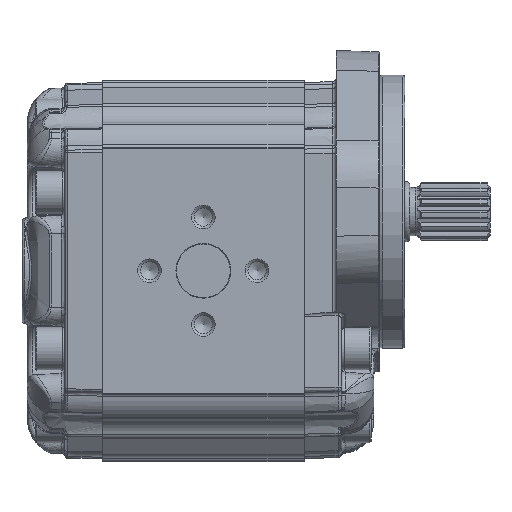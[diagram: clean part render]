
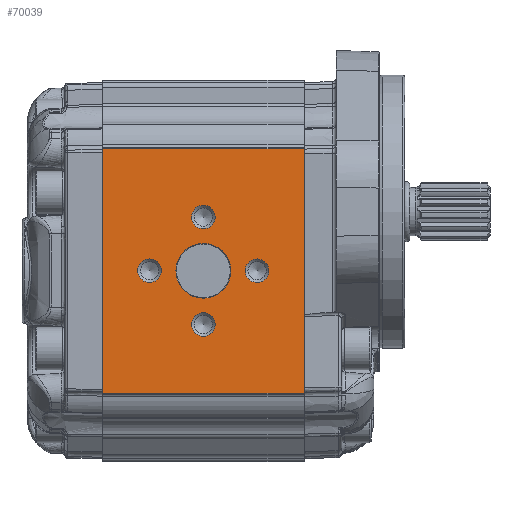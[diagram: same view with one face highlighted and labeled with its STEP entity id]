
A CAD part, left-side view. The second image highlights one B-rep face of the part: STEP entity #70039.
In plain terms, the highlighted planar face has unit normal (-1, 0, 0) as drawn and (1, 0, 0) by its records, which use the part's own axes.
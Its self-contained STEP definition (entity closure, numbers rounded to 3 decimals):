
#8110=LINE('',#122450,#10124);
#8121=LINE('',#122534,#10135);
#8167=LINE('',#122700,#10181);
#8168=LINE('',#122701,#10182);
#10124=VECTOR('',#77540,1000.);
#10135=VECTOR('',#77615,1000.);
#10181=VECTOR('',#77793,1000.);
#10182=VECTOR('',#77794,1000.);
#16511=ORIENTED_EDGE('',*,*,#29302,.T.);
#16512=ORIENTED_EDGE('',*,*,#29303,.T.);
#16513=ORIENTED_EDGE('',*,*,#29304,.T.);
#16514=ORIENTED_EDGE('',*,*,#29305,.T.);
#16515=ORIENTED_EDGE('',*,*,#29306,.T.);
#16516=ORIENTED_EDGE('',*,*,#29177,.F.);
#16517=ORIENTED_EDGE('',*,*,#29307,.T.);
#16518=ORIENTED_EDGE('',*,*,#29219,.F.);
#16519=ORIENTED_EDGE('',*,*,#29308,.T.);
#29177=EDGE_CURVE('',#35902,#35903,#8110,.T.);
#29219=EDGE_CURVE('',#35944,#35945,#8121,.T.);
#29302=EDGE_CURVE('',#35993,#35993,#39788,.F.);
#29303=EDGE_CURVE('',#35994,#35994,#39789,.F.);
#29304=EDGE_CURVE('',#35995,#35995,#39790,.F.);
#29305=EDGE_CURVE('',#35996,#35996,#39791,.F.);
#29306=EDGE_CURVE('',#35997,#35997,#39792,.F.);
#29307=EDGE_CURVE('',#35902,#35945,#8167,.F.);
#29308=EDGE_CURVE('',#35944,#35903,#8168,.F.);
#35902=VERTEX_POINT('',#122449);
#35903=VERTEX_POINT('',#122451);
#35944=VERTEX_POINT('',#122535);
#35945=VERTEX_POINT('',#122536);
#35993=VERTEX_POINT('',#122691);
#35994=VERTEX_POINT('',#122693);
#35995=VERTEX_POINT('',#122695);
#35996=VERTEX_POINT('',#122697);
#35997=VERTEX_POINT('',#122699);
#39788=CIRCLE('',#73307,4.4);
#39789=CIRCLE('',#73308,4.4);
#39790=CIRCLE('',#73309,4.4);
#39791=CIRCLE('',#73310,4.4);
#39792=CIRCLE('',#73311,10.2);
#41130=EDGE_LOOP('',(#16511));
#41131=EDGE_LOOP('',(#16512));
#41132=EDGE_LOOP('',(#16513));
#41133=EDGE_LOOP('',(#16514));
#41134=EDGE_LOOP('',(#16515));
#41135=EDGE_LOOP('',(#16516,#16517,#16518,#16519));
#44489=FACE_BOUND('',#41130,.T.);
#44490=FACE_BOUND('',#41131,.T.);
#44491=FACE_BOUND('',#41132,.T.);
#44492=FACE_BOUND('',#41133,.T.);
#44493=FACE_BOUND('',#41134,.T.);
#44494=FACE_BOUND('',#41135,.T.);
#46925=PLANE('',#73306);
#70039=ADVANCED_FACE('',(#44489,#44490,#44491,#44492,#44493,#44494),#46925,
 .T.);
#73306=AXIS2_PLACEMENT_3D('',#122689,#77781,#77782);
#73307=AXIS2_PLACEMENT_3D('',#122690,#77783,#77784);
#73308=AXIS2_PLACEMENT_3D('',#122692,#77785,#77786);
#73309=AXIS2_PLACEMENT_3D('',#122694,#77787,#77788);
#73310=AXIS2_PLACEMENT_3D('',#122696,#77789,#77790);
#73311=AXIS2_PLACEMENT_3D('',#122698,#77791,#77792);
#77540=DIRECTION('',(0.,0.,-1.));
#77615=DIRECTION('',(0.,0.,1.));
#77781=DIRECTION('',(1.,0.,0.));
#77782=DIRECTION('',(0.,0.,1.));
#77783=DIRECTION('',(1.,0.,0.));
#77784=DIRECTION('',(0.,0.,1.));
#77785=DIRECTION('',(1.,0.,0.));
#77786=DIRECTION('',(0.,0.,1.));
#77787=DIRECTION('',(1.,0.,0.));
#77788=DIRECTION('',(0.,0.,1.));
#77789=DIRECTION('',(1.,0.,0.));
#77790=DIRECTION('',(0.,0.,1.));
#77791=DIRECTION('',(1.,0.,0.));
#77792=DIRECTION('',(0.,0.,1.));
#77793=DIRECTION('',(0.,1.,0.));
#77794=DIRECTION('',(0.,-1.,0.));
#122449=CARTESIAN_POINT('',(57.5,75.,45.5));
#122450=CARTESIAN_POINT('',(57.5,75.,91.388));
#122451=CARTESIAN_POINT('',(57.5,75.,-45.5));
#122534=CARTESIAN_POINT('',(57.5,0.,-44.978));
#122535=CARTESIAN_POINT('',(57.5,0.,-45.5));
#122536=CARTESIAN_POINT('',(57.5,0.,45.5));
#122689=CARTESIAN_POINT('',(57.5,-149.417,91.388));
#122690=CARTESIAN_POINT('',(57.5,37.5,20.));
#122691=CARTESIAN_POINT('',(57.5,37.5,24.4));
#122692=CARTESIAN_POINT('',(57.5,17.5,0.));
#122693=CARTESIAN_POINT('',(57.5,17.5,4.4));
#122694=CARTESIAN_POINT('',(57.5,37.5,-20.));
#122695=CARTESIAN_POINT('',(57.5,37.5,-15.6));
#122696=CARTESIAN_POINT('',(57.5,57.5,0.));
#122697=CARTESIAN_POINT('',(57.5,57.5,4.4));
#122698=CARTESIAN_POINT('',(57.5,37.5,0.));
#122699=CARTESIAN_POINT('',(57.5,37.5,10.2));
#122700=CARTESIAN_POINT('',(57.5,-149.417,45.5));
#122701=CARTESIAN_POINT('',(57.5,-149.417,-45.5));
